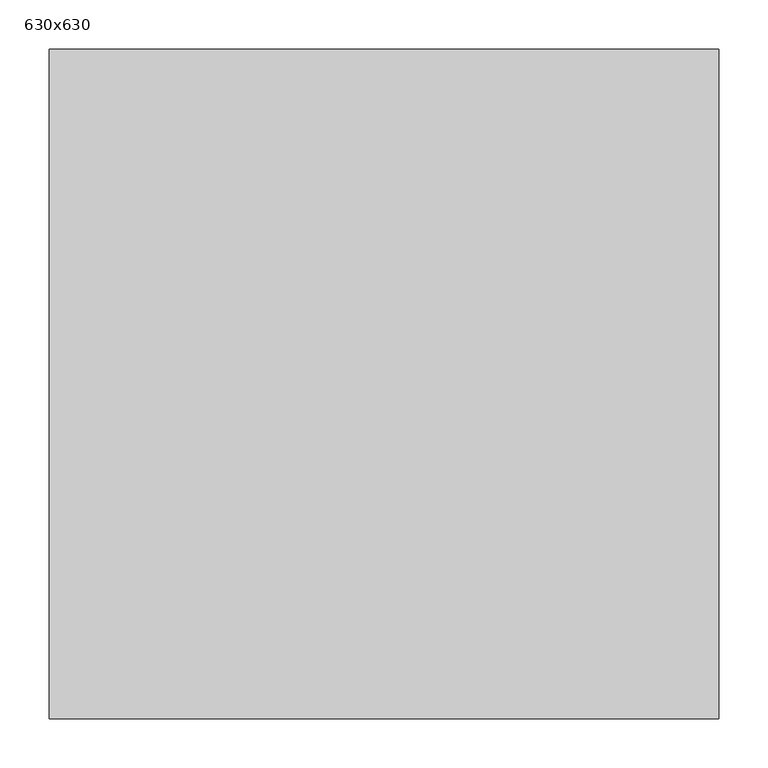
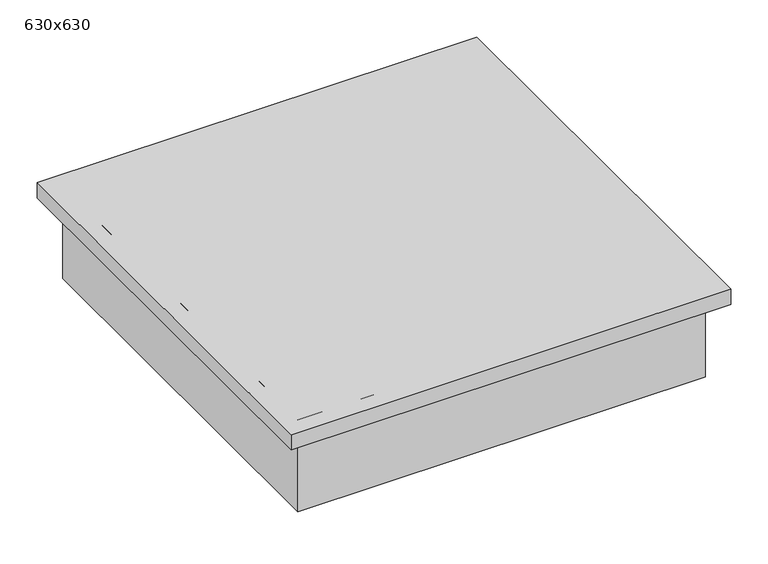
"""IFC4 building model written with IfcOpenShell, lengths in millimetres: air terminal geometry, 排风格栅 - 矩形 - 排烟 - 板式 - 主体 : 630x630."""

import ifcopenshell
import ifcopenshell.guid

model = None  # the IFC model being written
_history = None  # IfcOwnerHistory: only IFC2X3 demands one
_inside = {}  # id of a spatial element -> (the spatial element, [elements in it])
_under = {}  # id of a project, library or spatial element -> (it, [spatial elements below it])
_declared = {}  # id of a project -> (the project, [libraries it declares])
_typed = {}  # id of a type object -> (the type object, [elements of that type])
_made_of = {}  # id of a material, layer set ... -> (it, [elements and type objects made of it])


def new_model(schema):
    """Start an empty IFC model of exactly this schema.

    Asked for "IFC4X3", IfcOpenShell would pick the latest addendum, in which some entities
    have other attributes; the version numbers below select the first issue.
    IFC2X3 requires an IfcOwnerHistory on every rooted entity: one is made here for all.
    """
    global model, _history
    if schema == "IFC4X3":
        model = ifcopenshell.file(schema_version=(4, 3, 0, 0))
    else:
        model = ifcopenshell.file(schema=schema)
    _inside.clear()
    _under.clear()
    _declared.clear()
    _typed.clear()
    _made_of.clear()
    _history = None
    if model.schema == "IFC2X3":
        org = make("IfcOrganization", Name="unknown")
        user = make(
            "IfcPersonAndOrganization",
            ThePerson=make("IfcPerson", FamilyName="unknown"),
            TheOrganization=org,
        )
        app = make(
            "IfcApplication",
            ApplicationDeveloper=org,
            Version="unknown",
            ApplicationFullName="unknown",
            ApplicationIdentifier="unknown",
        )
        _history = make(
            "IfcOwnerHistory",
            OwningUser=user,
            OwningApplication=app,
            ChangeAction="ADDED",
            CreationDate=0,
        )
    return model


def make(cls, **values):
    """One entity of the class cls with the attributes given. An attribute that is None is left unset."""
    return model.create_entity(
        cls, **{name: value for name, value in values.items() if value is not None}
    )


def rooted(cls, **values):
    """An entity with a GlobalId (a new one), such as an element, a storey or a relation."""
    return make(cls, GlobalId=ifcopenshell.guid.new(), OwnerHistory=_history, **values)


def si_unit(unit_type, name, prefix=None):
    """IfcSIUnit, for example si_unit("LENGTHUNIT", "METRE", prefix="MILLI")."""
    return make("IfcSIUnit", UnitType=unit_type, Prefix=prefix, Name=name)


def assignment(units):
    """IfcUnitAssignment: the units of a project."""
    return None if units is None else make("IfcUnitAssignment", Units=units)


def point(xyz):
    """IfcCartesianPoint."""
    return None if xyz is None else make("IfcCartesianPoint", Coordinates=xyz)


def direction(xyz):
    """IfcDirection."""
    return None if xyz is None else make("IfcDirection", DirectionRatios=xyz)


def frame(location, z_axis=None, x_axis=None):
    """IfcAxis2Placement3D, a coordinate frame: its origin and axes. An axis left out is left unset."""
    return make(
        "IfcAxis2Placement3D",
        Location=point(location),
        Axis=direction(z_axis),
        RefDirection=direction(x_axis),
    )


def origin():
    """The frame at (0, 0, 0) with its axes left unset."""
    return frame((0.0, 0.0, 0.0))


def origin_with_axes():
    """The frame at (0, 0, 0) with the z axis (0, 0, 1) and the x axis (1, 0, 0) written out."""
    return frame((0.0, 0.0, 0.0), z_axis=(0.0, 0.0, 1.0), x_axis=(1.0, 0.0, 0.0))


def place(relative_to, where):
    """IfcLocalPlacement: puts the frame where relative to a parent placement (None: the world)."""
    return make(
        "IfcLocalPlacement", PlacementRelTo=relative_to, RelativePlacement=where
    )


def context(
    kind, dimensions, precision=None, world=None, true_north=None, identifier=None
):
    """IfcGeometricRepresentationContext, for example the 3D "Model" context."""
    return make(
        "IfcGeometricRepresentationContext",
        ContextIdentifier=identifier,
        ContextType=kind,
        CoordinateSpaceDimension=dimensions,
        Precision=precision,
        WorldCoordinateSystem=world,
        TrueNorth=true_north,
    )


def project(units=None, contexts=None):
    """IfcProject with its units and contexts."""
    return rooted(
        "IfcProject",
        Name="project",
        RepresentationContexts=contexts,
        UnitsInContext=assignment(units),
    )


def spatial(cls, under=None, at=None, **own):
    """A site, building, storey or space (cls), placed at a placement, below another one or the project."""
    s = rooted(cls, ObjectPlacement=at, **own)
    if under is not None:
        _under.setdefault(under.id(), (under, []))[1].append(s)
    return s


def polyline(points):
    """IfcPolyline through the points."""
    return make("IfcPolyline", Points=[point(p) for p in points])


def outline(outer, holes=None, kind="AREA"):
    """IfcArbitraryClosedProfileDef: a profile drawn as a closed curve; with holes, ...WithVoids."""
    if holes is None:
        return make("IfcArbitraryClosedProfileDef", ProfileType=kind, OuterCurve=outer)
    return make(
        "IfcArbitraryProfileDefWithVoids",
        ProfileType=kind,
        OuterCurve=outer,
        InnerCurves=holes,
    )


def extrude(swept, where, along, depth):
    """IfcExtrudedAreaSolid: the profile swept, set in the frame where, extruded along a direction by depth."""
    return make(
        "IfcExtrudedAreaSolid",
        SweptArea=swept,
        Position=where,
        ExtrudedDirection=direction(along),
        Depth=depth,
    )


def shape(context_of_items, identifier, shape_type, items):
    """IfcShapeRepresentation: the items that make up one representation, for example the "Body"."""
    return make(
        "IfcShapeRepresentation",
        ContextOfItems=context_of_items,
        RepresentationIdentifier=identifier,
        RepresentationType=shape_type,
        Items=items,
    )


def source(mapping_origin, context_of_items, identifier, shape_type, items):
    """IfcRepresentationMap: a shape defined once, which mapped items show again and again."""
    return make(
        "IfcRepresentationMap",
        MappingOrigin=mapping_origin,
        MappedRepresentation=shape(context_of_items, identifier, shape_type, items),
    )


def transform(
    local_origin,
    x_axis=None,
    y_axis=None,
    z_axis=None,
    scale=None,
    scale2=None,
    scale3=None,
    uniform=True,
):
    """IfcCartesianTransformationOperator3D, or its non-uniform kind. x_axis, y_axis, z_axis: its Axis1, 2, 3."""
    if uniform:
        return make(
            "IfcCartesianTransformationOperator3D",
            Axis1=direction(x_axis),
            Axis2=direction(y_axis),
            LocalOrigin=point(local_origin),
            Scale=scale,
            Axis3=direction(z_axis),
        )
    return make(
        "IfcCartesianTransformationOperator3DnonUniform",
        Axis1=direction(x_axis),
        Axis2=direction(y_axis),
        LocalOrigin=point(local_origin),
        Scale=scale,
        Axis3=direction(z_axis),
        Scale2=scale2,
        Scale3=scale3,
    )


def mapped(mapping_source, mapping_target):
    """IfcMappedItem: shows the shape of a source again, moved by a transform."""
    return make(
        "IfcMappedItem", MappingSource=mapping_source, MappingTarget=mapping_target
    )


def made_of(thing, what):
    """Note that an element or type object is made of a material, layer set ...; save() writes the relation."""
    if what is not None:
        _made_of.setdefault(what.id(), (what, []))[1].append(thing)
    return thing


def element(
    cls,
    number,
    at=None,
    inside=None,
    cuts=None,
    type_object=None,
    material=None,
    context=None,
    identifier="Body",
    shape_type=None,
    held_by="IfcProductDefinitionShape",
    body=None,
    shapes=None,
    **own,
):
    """One element of the class cls, such as IfcWall. Its Tag is "e" and its number.

    at: its placement. inside: the storey or other place that contains it. cuts: it is an
    opening in that element (IfcRelVoidsElement). A single representation is given by context,
    identifier, shape_type and body (its items); several are given by shapes. held_by: the class
    of the entity that holds the representations. save() writes the other relations.
    """
    e = rooted(cls, Tag="e%d" % number, ObjectPlacement=at, **own)
    if body is not None:
        shapes = [shape(context, identifier, shape_type, body)]
    if shapes is not None:
        e.Representation = make(held_by, Representations=shapes)
    if inside is not None:
        _inside.setdefault(inside.id(), (inside, []))[1].append(e)
    if cuts is not None:
        rooted(
            "IfcRelVoidsElement", RelatingBuildingElement=cuts, RelatedOpeningElement=e
        )
    if type_object is not None:
        _typed.setdefault(type_object.id(), (type_object, []))[1].append(e)
    return made_of(e, material)


def aggregate(whole, parts):
    """IfcRelAggregates: a whole, such as a stair, and the parts it consists of."""
    return rooted("IfcRelAggregates", RelatingObject=whole, RelatedObjects=parts)


def save(model, path):
    """Write the relations noted so far, then the file.

    IfcRelAggregates (storeys below a building ...), IfcRelContainedInSpatialStructure (elements
    in a storey), IfcRelDefinesByType, IfcRelAssociatesMaterial and IfcRelDeclares: one each for
    every whole, place, type object, material and project.
    """
    for whole, parts in _under.values():
        aggregate(whole, parts)
    for where, things in _inside.values():
        rooted(
            "IfcRelContainedInSpatialStructure",
            RelatedElements=things,
            RelatingStructure=where,
        )
    for kind, things in _typed.values():
        rooted("IfcRelDefinesByType", RelatedObjects=things, RelatingType=kind)
    for what, things in _made_of.values():
        rooted("IfcRelAssociatesMaterial", RelatedObjects=things, RelatingMaterial=what)
    for by, libraries in _declared.values():
        rooted("IfcRelDeclares", RelatingContext=by, RelatedDefinitions=libraries)
    model.write(path)


def air_terminal_630x630_c73c987f(model_context):
    return source(origin(), model_context, "Body", "SweptSolid", [
        extrude(outline(polyline([(340.0, -340.0), (-340.0, -340.0), (-340.0, 340.0), (340.0, 340.0), (340.0, -340.0)])), origin_with_axes(), (0.0, 0.0, 1.0), 25.0),
        extrude(outline(polyline([(315.0, -315.0), (-315.0, -315.0), (-315.0, 315.0), (315.0, 315.0), (315.0, -315.0)])), frame((0.0, 0.0, -125.0), z_axis=(0.0, 0.0, 1.0), x_axis=(1.0, 0.0, 0.0)), (0.0, 0.0, 1.0), 150.0),
    ])


if __name__ == "__main__":
    model = new_model("IFC4")
    model_context = context("Model", 3, world=origin())
    ifc_project = project(units=[si_unit("LENGTHUNIT", "METRE", prefix="MILLI")], contexts=[model_context])
    site = spatial("IfcSite", under=ifc_project)
    building = spatial("IfcBuilding", under=site)
    placement = place(None, origin())
    air_terminal_630x630_shape = air_terminal_630x630_c73c987f(model_context)
    element("IfcAirTerminal", 1, ObjectType="排风格栅 - 矩形 - 排烟 - 板式 - 主体 : 630x630", at=placement, inside=building, context=model_context, shape_type="MappedRepresentation", body=[
        mapped(air_terminal_630x630_shape, transform((0.0, 0.0, 0.0), x_axis=(1.0, 0.0, 0.0), y_axis=(0.0, 1.0, 0.0), z_axis=(0.0, 0.0, 1.0))),
    ])
    save(model, "model.ifc")
